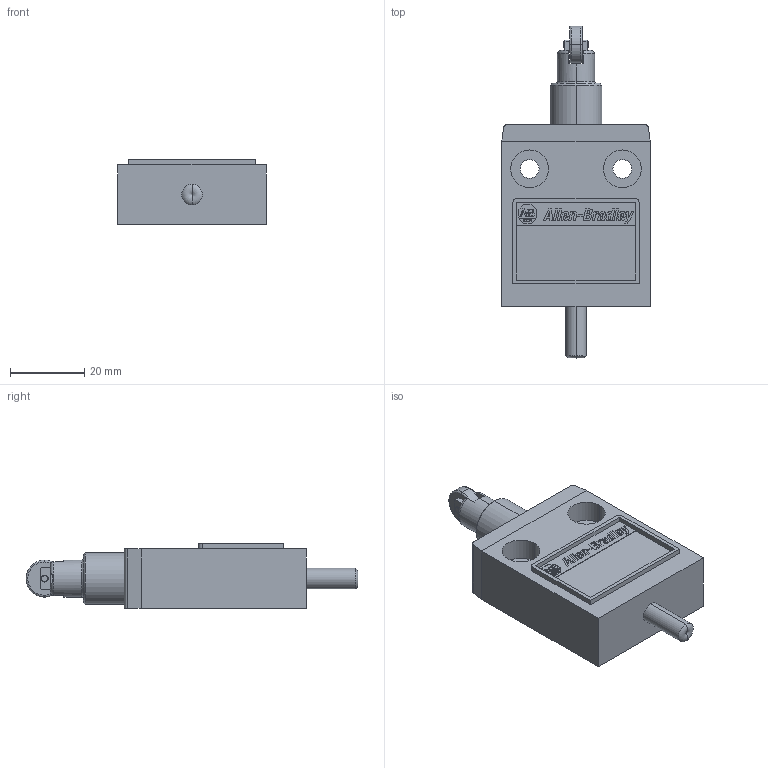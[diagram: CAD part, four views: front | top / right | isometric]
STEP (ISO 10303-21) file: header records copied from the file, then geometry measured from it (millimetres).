
FILE_DESCRIPTION (( 'STEP AP214' ), '1' );
FILE_NAME ('802B-CSDD1BSLD4.STEP', '2009-09-23T12:32:47', ( ' ' ), ( ' ' ), 'SwSTEP 2.0', 'SolidWorks 2007', '' );
FILE_SCHEMA (( 'AUTOMOTIVE_DESIGN' ));
Length unit declared in the file: millimetre
Products named in the file (1): 802B-CSDD1BSLD4
Bounding box: 40.07 x 89.67 x 17.4 mm (x, y, z)
Volume: 33475.1 mm3; surface area: 11232.3 mm2
Topology: 22 solids, 22 shells, 612 faces, 1678 edges, 1114 vertices
Faces by surface type: plane 564, cylinder 32, torus 12, sphere 2, cone 2
Entity records: 26154 total; most frequent: CARTESIAN_POINT 3475, ORIENTED_EDGE 3352, DIRECTION 2994, EDGE_CURVE 1676, VECTOR 1572, LINE 1572, VERTEX_POINT 1114, AXIS2_PLACEMENT_3D 711
